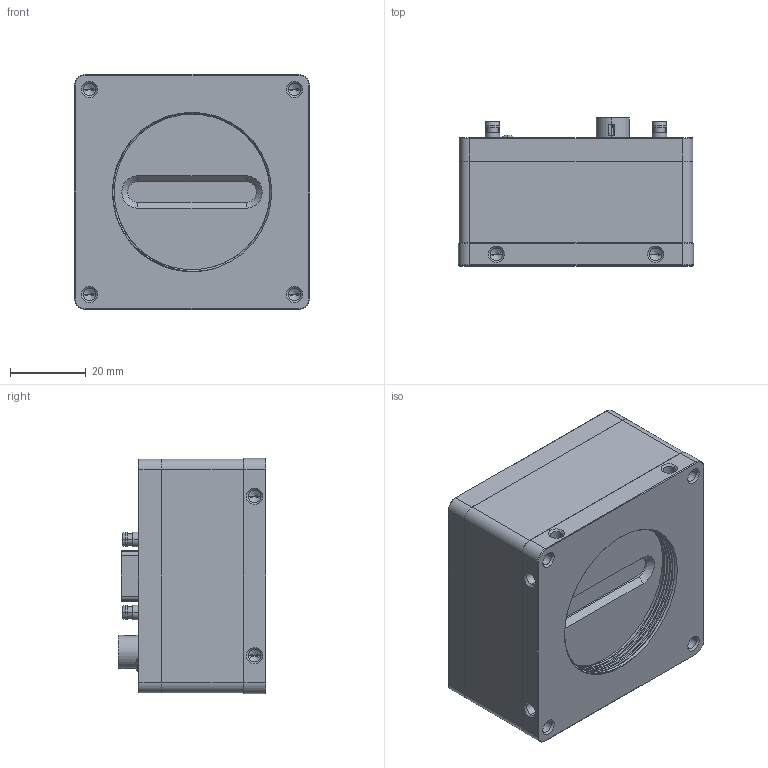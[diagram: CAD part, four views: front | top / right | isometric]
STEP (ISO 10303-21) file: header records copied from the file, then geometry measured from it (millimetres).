
FILE_DESCRIPTION((''),'2;1');
FILE_NAME('0-DH3-3077-0004_SW0002','2023-12-21T15:00:22',('303992'),(''),'CREO PARAMETRIC BY PTC INC, 2020184','CREO PARAMETRIC BY PTC INC, 2020184','');
FILE_SCHEMA(('CONFIG_CONTROL_DESIGN','SHAPE_APPEARANCE_LAYERS_GROUPS'));
Length unit declared in the file: millimetre
Products named in the file (1): 0-DH3-3077-0004_SW0002
Bounding box: 62 x 38.98 x 62 mm (x, y, z)
Volume: 118749.7 mm3; surface area: 20675.1 mm2
Topology: 1 solids, 1 shells, 770 faces, 2008 edges, 1278 vertices
Faces by surface type: plane 382, cylinder 221, cone 149, bspline 14, torus 2, sphere 2
Entity records: 40635 total; most frequent: CARTESIAN_POINT 9770, DIRECTION 3984, ORIENTED_EDGE 3948, PRESENTATION_STYLE_ASSIGNMENT 2745, STYLED_ITEM 1975, CURVE_STYLE 1974, EDGE_CURVE 1974, AXIS2_PLACEMENT_3D 1367
